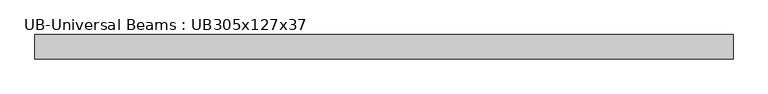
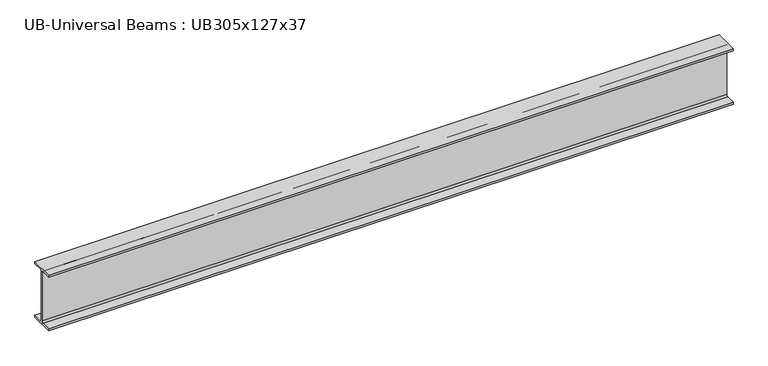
"""IFC4 building model written with IfcOpenShell, lengths in millimetres: beam geometry, UB-Universal Beams : UB305x127x37."""

from ifc_helpers import new_model, si_unit, point, frame, frame_2d, origin, place, context, project, spatial, polyline, circle_curve, trimmed, segment, composite_curve, outline, extrude, source, transform, mapped, element, save


def ub_universal_beams_ub305x127x37_99f87efb(model_context):
    return source(origin(), model_context, "Body", "SweptSolid", [
        extrude(outline(composite_curve([segment(polyline([(61.7, -141.5), (61.7, -152.2), (-61.7, -152.2), (-61.7, -141.5), (-12.45, -141.5)]), True, "CONTINUOUS"), segment(trimmed(circle_curve(frame_2d((-12.45, -132.6)), 8.9), [point((-12.45, -141.5))], [point((-3.55, -132.6))], True, "CARTESIAN"), True, "CONTINUOUS"), segment(polyline([(-3.55, -132.6), (-3.55, 132.6)]), True, "CONTINUOUS"), segment(trimmed(circle_curve(frame_2d((-12.45, 132.6)), 8.9), [point((-3.55, 132.6))], [point((-12.45, 141.5))], True, "CARTESIAN"), True, "CONTINUOUS"), segment(polyline([(-12.45, 141.5), (-61.7, 141.5), (-61.7, 152.2), (61.7, 152.2), (61.7, 141.5), (12.45, 141.5)]), True, "CONTINUOUS"), segment(trimmed(circle_curve(frame_2d((12.45, 132.6)), 8.9), [point((12.45, 141.5))], [point((3.55, 132.6))], True, "CARTESIAN"), True, "CONTINUOUS"), segment(polyline([(3.55, 132.6), (3.55, -132.6)]), True, "CONTINUOUS"), segment(trimmed(circle_curve(frame_2d((12.45, -132.6)), 8.9), [point((3.55, -132.6))], [point((12.45, -141.5))], True, "CARTESIAN"), True, "CONTINUOUS"), segment(polyline([(12.45, -141.5), (61.7, -141.5)]), True, "CONTINUOUS")], self_intersect=False)), frame((-1812.2, 0.0, 0.0), z_axis=(1.0, 0.0, 0.0), x_axis=(0.0, 1.0, 0.0)), (0.0, 0.0, 1.0), 3547.6),
    ])


if __name__ == "__main__":
    model = new_model("IFC4")
    model_context = context("Model", 3, world=origin())
    ifc_project = project(units=[si_unit("LENGTHUNIT", "METRE", prefix="MILLI")], contexts=[model_context])
    site = spatial("IfcSite", under=ifc_project)
    building = spatial("IfcBuilding", under=site)
    placement = place(None, origin())
    ub_universal_beams_ub305x127x37_shape = ub_universal_beams_ub305x127x37_99f87efb(model_context)
    element("IfcBeam", 1, ObjectType="UB-Universal Beams : UB305x127x37", at=placement, inside=building, context=model_context, shape_type="MappedRepresentation", body=[
        mapped(ub_universal_beams_ub305x127x37_shape, transform((0.0, 0.0, 0.0), x_axis=(1.0, 0.0, 0.0), y_axis=(0.0, 1.0, 0.0), z_axis=(0.0, 0.0, 1.0))),
    ])
    save(model, "model.ifc")
